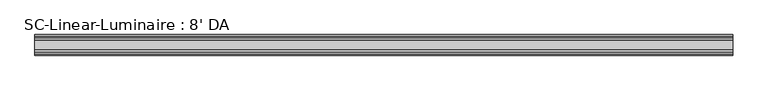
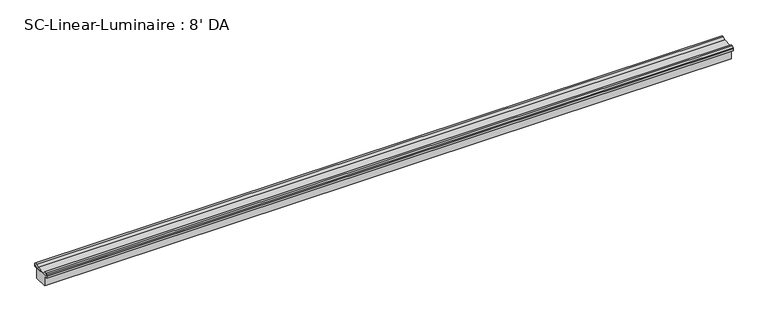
"""IFC4 building model written with IfcOpenShell, lengths in millimetres: light fixture geometry, SC-Linear-Luminaire : 8' DA."""

from ifc_helpers import new_model, si_unit, frame, origin, place, context, project, spatial, polyline, outline, extrude, source, transform, mapped, element, save


def sc_linear_luminaire_8_da_5aac7d14(model_context):
    return source(origin(), model_context, "Body", "SweptSolid", [
        extrude(outline(polyline([(33.02, 66.5757209), (33.02, 60.325), (22.225, 60.325), (22.225, 26.45), (-22.225, 26.45), (-22.225, 60.325), (-33.02, 60.325), (-33.02, 66.5757209), (-29.845, 66.5757209), (-29.845, 62.6426128), (29.845, 62.6426128), (29.845, 66.5757209), (33.02, 66.5757209)])), frame((-1117.6, 0.0, 0.0), z_axis=(1.0, 0.0, 0.0), x_axis=(0.0, 1.0, 0.0)), (0.0, 0.0, 1.0), 2235.2),
        extrude(outline(polyline([(33.02, 66.5757209), (29.845, 66.5757209), (29.845, 62.6426128), (-29.845, 62.6426128), (-29.845, 66.5757209), (-33.02, 66.5757209), (-33.02, 71.1228225), (-29.3990509, 74.7437716), (-21.7203311, 74.7437716), (-15.3703311, 68.3937716), (15.3532116, 68.3937716), (21.7032116, 74.7437716), (29.3990509, 74.7437716), (33.02, 71.1228225), (33.02, 66.5757209)])), frame((-1117.6, 0.0, 0.0), z_axis=(1.0, 0.0, 0.0), x_axis=(0.0, 1.0, 0.0)), (0.0, 0.0, 1.0), 2235.2),
    ])


if __name__ == "__main__":
    model = new_model("IFC4")
    model_context = context("Model", 3, world=origin())
    ifc_project = project(units=[si_unit("LENGTHUNIT", "METRE", prefix="MILLI")], contexts=[model_context])
    site = spatial("IfcSite", under=ifc_project)
    building = spatial("IfcBuilding", under=site)
    placement = place(None, origin())
    sc_linear_luminaire_8_da_shape = sc_linear_luminaire_8_da_5aac7d14(model_context)
    element("IfcLightFixture", 1, ObjectType="SC-Linear-Luminaire : 8' DA", at=placement, inside=building, context=model_context, shape_type="MappedRepresentation", body=[
        mapped(sc_linear_luminaire_8_da_shape, transform((0.0, 0.0, 0.0), x_axis=(1.0, 0.0, 0.0), y_axis=(0.0, 1.0, 0.0), z_axis=(0.0, 0.0, 1.0))),
    ])
    save(model, "model.ifc")
